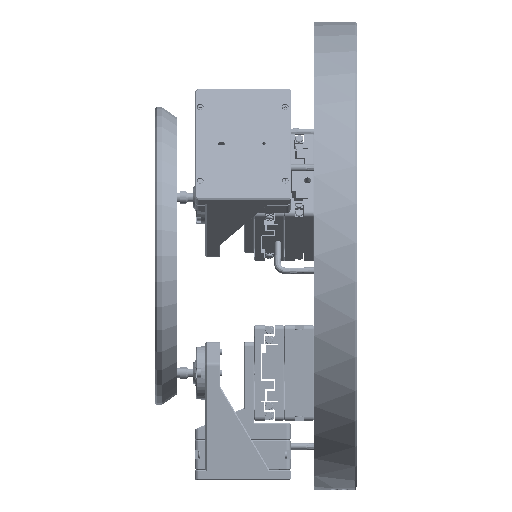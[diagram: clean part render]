
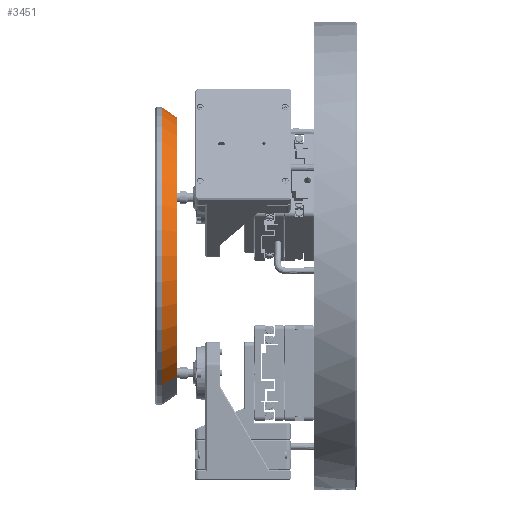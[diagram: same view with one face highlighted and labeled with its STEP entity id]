
A CAD part, left-side view. The second image highlights one B-rep face of the part: STEP entity #3451.
In plain terms, the highlighted conical face has half-angle 35 degrees and reference radius 65.099 mm.
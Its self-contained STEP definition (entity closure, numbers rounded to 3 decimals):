
#392 = CARTESIAN_POINT ( 'NONE',  ( -53.558, 10., 34.906 ) ) ;
#1156 = CONICAL_SURFACE ( 'NONE', #17801, 65.099, 0.611 ) ;
#3451 = ADVANCED_FACE ( 'NONE', ( #66248 ), #1156, .T. ) ;
#3866 = AXIS2_PLACEMENT_3D ( 'NONE', #43772, #26781, #47928 ) ;
#6296 = CARTESIAN_POINT ( 'NONE',  ( -53.558, 10., -95.291 ) ) ;
#6615 = LINE ( 'NONE', #392, #27841 ) ;
#6909 = DIRECTION ( 'NONE',  ( 0., 0., -1. ) ) ;
#8862 = EDGE_CURVE ( 'NONE', #38672, #67229, #42114, .T. ) ;
#17351 = VERTEX_POINT ( 'NONE', #55360 ) ;
#17801 = AXIS2_PLACEMENT_3D ( 'NONE', #43726, #59991, #6909 ) ;
#18875 = ORIENTED_EDGE ( 'NONE', *, *, #40452, .F. ) ;
#21233 = DIRECTION ( 'NONE',  ( 0., -0.819, 0.574 ) ) ;
#22448 = VECTOR ( 'NONE', #47943, 1000. ) ;
#24055 = VERTEX_POINT ( 'NONE', #57243 ) ;
#26781 = DIRECTION ( 'NONE',  ( 0., 1., 0. ) ) ;
#27841 = VECTOR ( 'NONE', #21233, 1000. ) ;
#29331 = CARTESIAN_POINT ( 'NONE',  ( -53.558, 3., 39.808 ) ) ;
#29692 = ORIENTED_EDGE ( 'NONE', *, *, #61753, .T. ) ;
#31585 = CIRCLE ( 'NONE', #3866, 65.099 ) ;
#36134 = ORIENTED_EDGE ( 'NONE', *, *, #62797, .F. ) ;
#38672 = VERTEX_POINT ( 'NONE', #49033 ) ;
#40452 = EDGE_CURVE ( 'NONE', #24055, #17351, #31585, .T. ) ;
#42114 = CIRCLE ( 'NONE', #65369, 70. ) ;
#43726 = CARTESIAN_POINT ( 'NONE',  ( -53.558, 10., -30.192 ) ) ;
#43772 = CARTESIAN_POINT ( 'NONE',  ( -53.558, 10., -30.192 ) ) ;
#46426 = CARTESIAN_POINT ( 'NONE',  ( -53.558, 3., -30.192 ) ) ;
#47928 = DIRECTION ( 'NONE',  ( 0., 0., 1. ) ) ;
#47943 = DIRECTION ( 'NONE',  ( 0., -0.819, -0.574 ) ) ;
#49033 = CARTESIAN_POINT ( 'NONE',  ( -53.558, 3., -100.192 ) ) ;
#51662 = DIRECTION ( 'NONE',  ( 0., 0., 1. ) ) ;
#54129 = EDGE_LOOP ( 'NONE', ( #18875, #29692, #56362, #36134 ) ) ;
#55360 = CARTESIAN_POINT ( 'NONE',  ( -53.558, 10., -95.291 ) ) ;
#56362 = ORIENTED_EDGE ( 'NONE', *, *, #8862, .F. ) ;
#56817 = DIRECTION ( 'NONE',  ( 0., -1., 0. ) ) ;
#57243 = CARTESIAN_POINT ( 'NONE',  ( -53.558, 10., 34.906 ) ) ;
#59991 = DIRECTION ( 'NONE',  ( 0., -1., 0. ) ) ;
#61753 = EDGE_CURVE ( 'NONE', #24055, #67229, #6615, .T. ) ;
#62797 = EDGE_CURVE ( 'NONE', #17351, #38672, #63914, .T. ) ;
#63914 = LINE ( 'NONE', #6296, #22448 ) ;
#65369 = AXIS2_PLACEMENT_3D ( 'NONE', #46426, #56817, #51662 ) ;
#66248 = FACE_OUTER_BOUND ( 'NONE', #54129, .T. ) ;
#67229 = VERTEX_POINT ( 'NONE', #29331 ) ;
